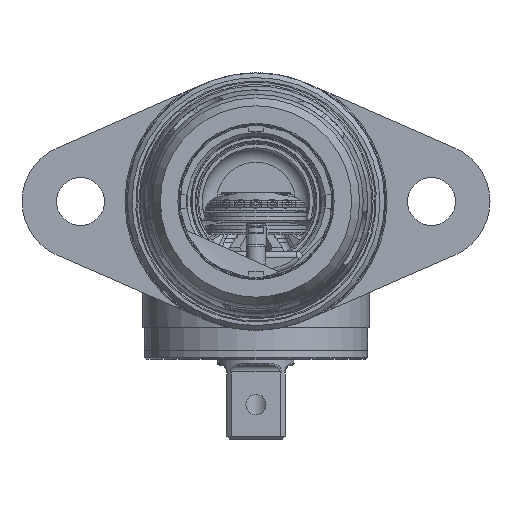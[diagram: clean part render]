
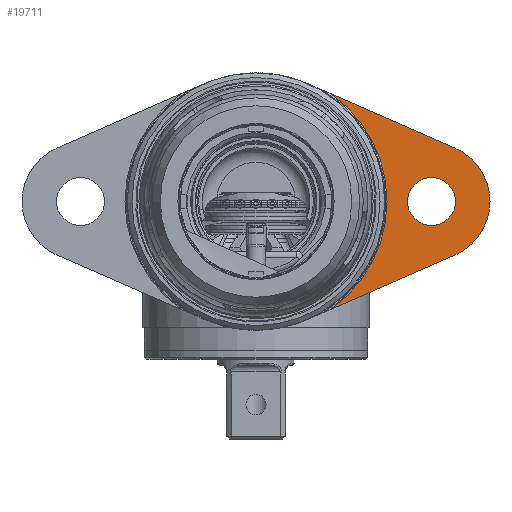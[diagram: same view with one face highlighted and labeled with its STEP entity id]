
A CAD part, front view. The second image highlights one B-rep face of the part: STEP entity #19711.
In plain terms, the highlighted planar face has unit normal (0, -1, 0).
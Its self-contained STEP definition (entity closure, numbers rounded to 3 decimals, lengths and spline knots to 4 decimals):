
#3405=LINE('',#197523,#6353);
#3406=LINE('',#197528,#6354);
#6353=VECTOR('',#94842,1.);
#6354=VECTOR('',#94845,1.);
#19711=ADVANCED_FACE('',(#25033,#26649),#21990,.T.);
#21990=PLANE('',#80040);
#25033=FACE_OUTER_BOUND('',#30386,.T.);
#26649=FACE_BOUND('',#30387,.T.);
#30386=EDGE_LOOP('',(#47333,#47334,#47335,#47336));
#30387=EDGE_LOOP('',(#47337));
#47333=ORIENTED_EDGE('',*,*,#69129,.F.);
#47334=ORIENTED_EDGE('',*,*,#69130,.T.);
#47335=ORIENTED_EDGE('',*,*,#69131,.F.);
#47336=ORIENTED_EDGE('',*,*,#69132,.F.);
#47337=ORIENTED_EDGE('',*,*,#69133,.T.);
#59224=VERTEX_POINT('',#197524);
#59225=VERTEX_POINT('',#197525);
#59226=VERTEX_POINT('',#197527);
#59227=VERTEX_POINT('',#197529);
#59228=VERTEX_POINT('',#197532);
#69129=EDGE_CURVE('',#59224,#59225,#3405,.T.);
#69130=EDGE_CURVE('',#59224,#59226,#73841,.T.);
#69131=EDGE_CURVE('',#59227,#59226,#3406,.T.);
#69132=EDGE_CURVE('',#59225,#59227,#73842,.T.);
#69133=EDGE_CURVE('',#59228,#59228,#73843,.T.);
#73841=CIRCLE('',#80037,1.12);
#73842=CIRCLE('',#80038,0.5);
#73843=CIRCLE('',#80039,0.205);
#80037=AXIS2_PLACEMENT_3D('',#197526,#94843,#94844);
#80038=AXIS2_PLACEMENT_3D('',#197530,#94846,#94847);
#80039=AXIS2_PLACEMENT_3D('',#197531,#94848,#94849);
#80040=AXIS2_PLACEMENT_3D('',#197533,#94850,#94851);
#94842=DIRECTION('',(0.917,0.,-0.4));
#94843=DIRECTION('',(0.,1.,0.));
#94844=DIRECTION('',(0.,0.,-1.));
#94845=DIRECTION('',(-0.917,0.,-0.4));
#94846=DIRECTION('',(0.,1.,0.));
#94847=DIRECTION('',(0.,0.,-1.));
#94848=DIRECTION('',(0.,1.,0.));
#94849=DIRECTION('',(0.,0.,-1.));
#94850=DIRECTION('',(0.,-1.,0.));
#94851=DIRECTION('',(0.,0.,-1.));
#197523=CARTESIAN_POINT('',(2.25,-2.581,2.9196));
#197524=CARTESIAN_POINT('',(0.6581,-2.581,3.6143));
#197525=CARTESIAN_POINT('',(1.725,-2.581,3.1487));
#197526=CARTESIAN_POINT('',(0.025,-2.581,2.6904));
#197527=CARTESIAN_POINT('',(0.6581,-2.581,1.7666));
#197528=CARTESIAN_POINT('',(2.25,-2.581,2.4613));
#197529=CARTESIAN_POINT('',(1.725,-2.581,2.2322));
#197530=CARTESIAN_POINT('',(1.525,-2.581,2.6904));
#197531=CARTESIAN_POINT('',(1.525,-2.581,2.6904));
#197532=CARTESIAN_POINT('',(1.525,-2.581,2.4854));
#197533=CARTESIAN_POINT('',(2.15,-2.581,2.6904));
